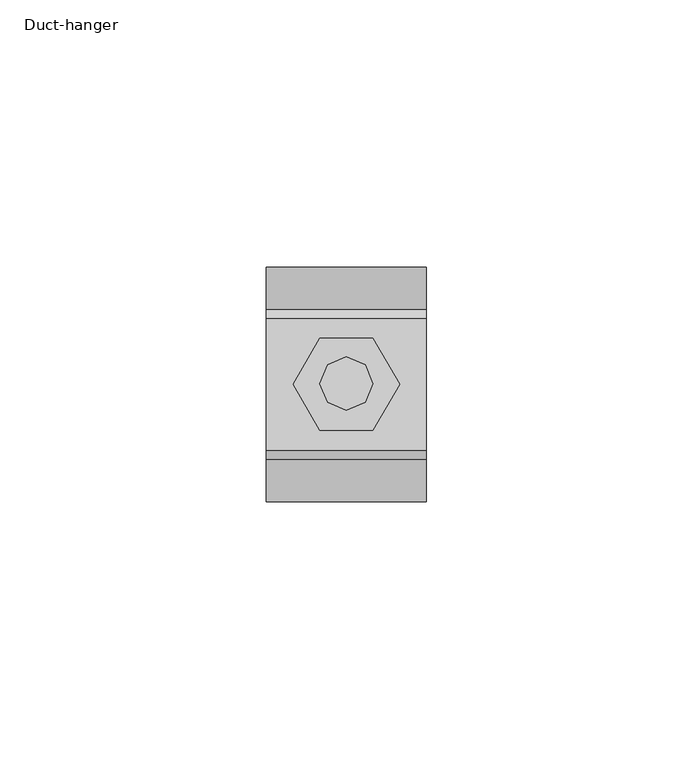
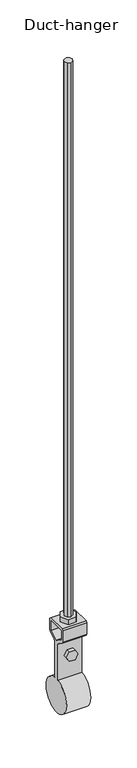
"""IFC4 building model written with IfcOpenShell, lengths in millimetres: proxy geometry, Duct-hanger : Φ44."""

from ifc_helpers import new_model, si_unit, point, frame, frame_2d, origin, place, context, project, spatial, polyline, circle_curve, trimmed, segment, composite_curve, outline, extrude, source, transform, mapped, element, save


def duct_hanger_0f291719(model_context):
    return source(origin(), model_context, "Body", "SweptSolid", [
        extrude(outline(polyline([(3.5351563, 3.5351563), (5.0003052, 0.0), (3.5351563, -3.5351563), (0.0, -5.0), (-3.5354614, -3.5351563), (-5.0, 0.0), (-3.5354614, 3.5351563), (0.0, 5.0), (3.5351563, 3.5351563)])), frame((0.0, 0.0, -738.396659), z_axis=(0.0, 0.0, 1.0), x_axis=(1.0, 0.0, 0.0)), (0.0, 0.0, 1.0), 738.396659),
        extrude(outline(polyline([(5.0, 8.659668), (10.0, 0.0), (5.0, -8.659668), (-5.0, -8.659668), (-10.0, 0.0), (-5.0, 8.659668), (5.0, 8.659668)])), frame((0.0, 0.0, -738.396659), z_axis=(0.0, 0.0, 1.0), x_axis=(1.0, 0.0, 0.0)), (0.0, 0.0, 1.0), 6.6101074),
        extrude(outline(polyline([(-775.4119888, -3.5931396), (-781.6354385, -7.1862793), (-787.8588882, -3.5931396), (-787.8588882, 3.5931396), (-781.6354385, 7.1862793), (-775.4119888, 3.5931396), (-775.4119888, -3.5931396)])), frame((0.0, -8.2446289, 0.0), z_axis=(0.0, 1.0, 0.0), x_axis=(0.0, 0.0, 1.0)), (0.0, 0.0, 1.0), 16.4892578),
        extrude(outline(composite_curve([segment(polyline([(14.0234375, -740.0653602), (14.0234375, -754.7150184), (12.8845215, -756.7813636), (4.6337891, -761.9891883), (3.494873, -764.0561439), (3.494873, -811.6354385)]), True, "CONTINUOUS"), segment(trimmed(circle_curve(frame_2d((0.0, -833.3560707)), 22.0), [point((3.494873, -811.6354385))], [point((-3.494873, -811.6354385))], False, "CARTESIAN"), True, "CONTINUOUS"), segment(polyline([(-3.494873, -811.6354385), (-3.494873, -764.0561439), (-4.6337891, -761.9891883), (-12.8845215, -756.7813636), (-14.0234375, -754.7150184), (-14.0234375, -740.0653602), (-12.3547363, -738.396659), (12.3547363, -738.396659), (14.0234375, -740.0653602)]), True, "CONTINUOUS")], self_intersect=False), holes=[polyline([(0.0, -760.6630354), (10.7531738, -753.8763954), (10.7531738, -741.6501381), (-10.7531738, -741.6501381), (-10.7531738, -753.8763954), (0.0, -760.6630354)])]), frame((-15.0, 0.0, 0.0), z_axis=(1.0, 0.0, 0.0), x_axis=(0.0, 1.0, 0.0)), (0.0, 0.0, 1.0), 30.0),
    ])


if __name__ == "__main__":
    model = new_model("IFC4")
    model_context = context("Model", 3, world=origin())
    ifc_project = project(units=[si_unit("LENGTHUNIT", "METRE", prefix="MILLI")], contexts=[model_context])
    site = spatial("IfcSite", under=ifc_project)
    building = spatial("IfcBuilding", under=site)
    placement = place(None, origin())
    duct_hanger_shape = duct_hanger_0f291719(model_context)
    element("IfcBuildingElementProxy", 1, Name="Duct-hanger : Φ44", ObjectType="Duct-hanger : Φ44", at=placement, inside=building, context=model_context, shape_type="MappedRepresentation", body=[
        mapped(duct_hanger_shape, transform((0.0, 0.0, 0.0), x_axis=(1.0, 0.0, 0.0), y_axis=(0.0, 1.0, 0.0), z_axis=(0.0, 0.0, 1.0))),
    ])
    save(model, "model.ifc")
